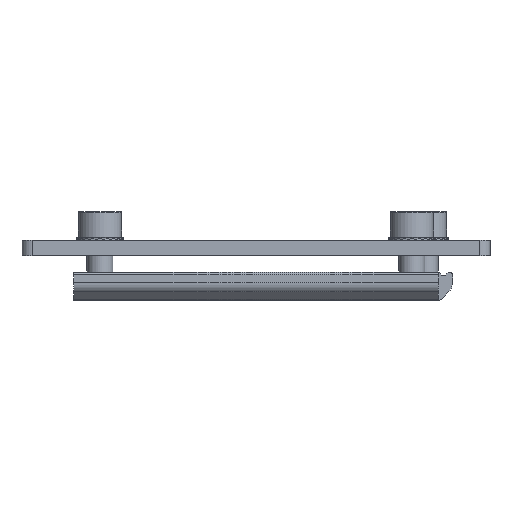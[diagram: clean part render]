
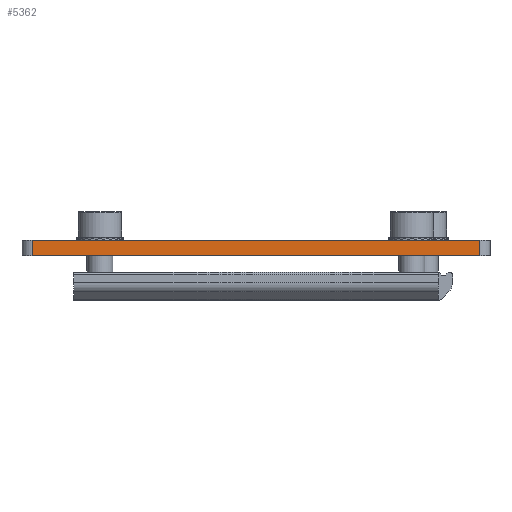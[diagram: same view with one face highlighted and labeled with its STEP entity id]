
A CAD part, front view. The second image highlights one B-rep face of the part: STEP entity #5362.
In plain terms, the highlighted planar face has unit normal (0, -1, 0).
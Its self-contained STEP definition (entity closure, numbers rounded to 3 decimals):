
#163 = DIRECTION ( 'NONE',  ( 0., -1., 0. ) ) ;
#1008 = FACE_OUTER_BOUND ( 'NONE', #10142, .T. ) ;
#1256 = ORIENTED_EDGE ( 'NONE', *, *, #1310, .F. ) ;
#1310 = EDGE_CURVE ( 'NONE', #4144, #11207, #7493, .T. ) ;
#1446 = VECTOR ( 'NONE', #3640, 1000. ) ;
#1691 = VECTOR ( 'NONE', #9684, 1000. ) ;
#2064 = CARTESIAN_POINT ( 'NONE',  ( -3.087, -16.485, 1.748 ) ) ;
#2300 = DIRECTION ( 'NONE',  ( 0., 0., 1. ) ) ;
#2710 = VECTOR ( 'NONE', #2300, 1000. ) ;
#2975 = LINE ( 'NONE', #8280, #5060 ) ;
#3436 = CARTESIAN_POINT ( 'NONE',  ( -89.087, -16.485, 1.748 ) ) ;
#3640 = DIRECTION ( 'NONE',  ( 1., 0., 0. ) ) ;
#3895 = AXIS2_PLACEMENT_3D ( 'NONE', #7288, #163, #6410 ) ;
#4144 = VERTEX_POINT ( 'NONE', #4591 ) ;
#4591 = CARTESIAN_POINT ( 'NONE',  ( -89.087, -16.485, 1.748 ) ) ;
#4837 = EDGE_CURVE ( 'NONE', #11043, #5983, #2975, .T. ) ;
#5060 = VECTOR ( 'NONE', #6504, 1000. ) ;
#5362 = ADVANCED_FACE ( 'NONE', ( #1008 ), #6380, .T. ) ;
#5855 = CARTESIAN_POINT ( 'NONE',  ( -89.087, -16.485, 1.748 ) ) ;
#5983 = VERTEX_POINT ( 'NONE', #7557 ) ;
#6148 = LINE ( 'NONE', #3436, #1691 ) ;
#6380 = PLANE ( 'NONE',  #3895 ) ;
#6410 = DIRECTION ( 'NONE',  ( 0., 0., -1. ) ) ;
#6504 = DIRECTION ( 'NONE',  ( 0., 0., 1. ) ) ;
#7288 = CARTESIAN_POINT ( 'NONE',  ( -89.087, -16.485, 1.748 ) ) ;
#7493 = LINE ( 'NONE', #5855, #2710 ) ;
#7557 = CARTESIAN_POINT ( 'NONE',  ( -3.087, -16.485, 4.748 ) ) ;
#7973 = EDGE_CURVE ( 'NONE', #11207, #5983, #8585, .T. ) ;
#8260 = ORIENTED_EDGE ( 'NONE', *, *, #7973, .F. ) ;
#8280 = CARTESIAN_POINT ( 'NONE',  ( -3.087, -16.485, 1.748 ) ) ;
#8585 = LINE ( 'NONE', #9028, #1446 ) ;
#8601 = CARTESIAN_POINT ( 'NONE',  ( -89.087, -16.485, 4.748 ) ) ;
#9028 = CARTESIAN_POINT ( 'NONE',  ( -89.087, -16.485, 4.748 ) ) ;
#9684 = DIRECTION ( 'NONE',  ( 1., 0., 0. ) ) ;
#9832 = EDGE_CURVE ( 'NONE', #4144, #11043, #6148, .T. ) ;
#10142 = EDGE_LOOP ( 'NONE', ( #8260, #1256, #11047, #10450 ) ) ;
#10450 = ORIENTED_EDGE ( 'NONE', *, *, #4837, .T. ) ;
#11043 = VERTEX_POINT ( 'NONE', #2064 ) ;
#11047 = ORIENTED_EDGE ( 'NONE', *, *, #9832, .T. ) ;
#11207 = VERTEX_POINT ( 'NONE', #8601 ) ;
